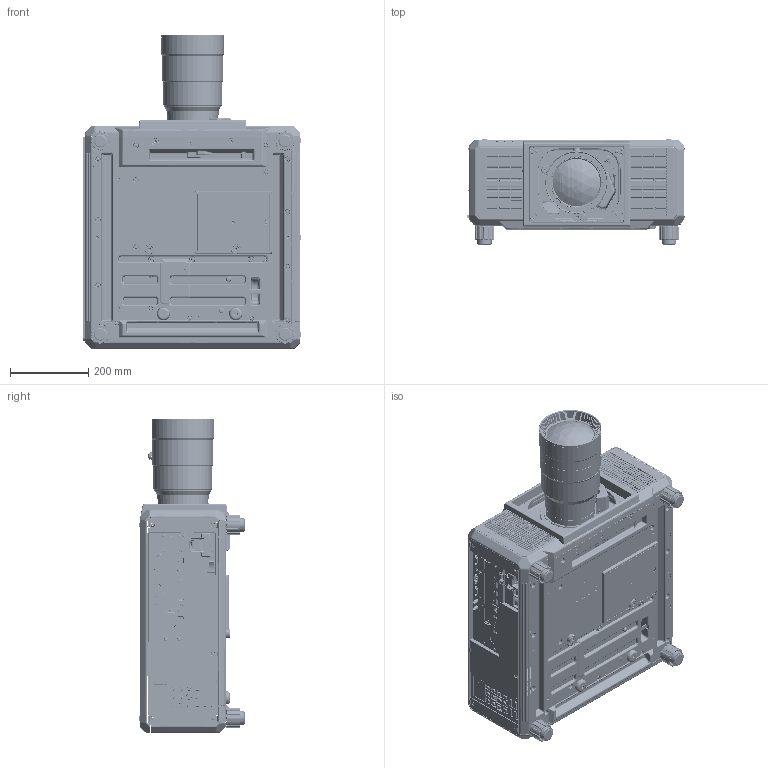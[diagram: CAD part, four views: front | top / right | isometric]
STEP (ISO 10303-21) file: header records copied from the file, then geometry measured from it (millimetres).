
FILE_DESCRIPTION(/* description */ (''),/* implementation_level */ '2;1');
FILE_NAME(/* name */ '01358109_ZA00_1-RQ25K_LEW600_FACE_1.stp',/* time_stamp */ '2025-04-18T13:39:56+09:00',/* author */ (''),/* organization */ (''),/* preprocessor_version */ 'ST-DEVELOPER v18.102',/* originating_system */ 'SIEMENS PLM Software NX2206.8080',/* authorisation */ '');
FILE_SCHEMA (('AUTOMOTIVE_DESIGN { 1 0 10303 214 3 1 1 1 }'));
Products named in the file (1): 01358109_ZA00_1-RQ25K_LEW600_FACE
Bounding box: 556.3 x 269 x 802.85 mm (x, y, z)
Surface area: 2115011.2 mm2 (no closed solid volume)
Topology: 0 solids, 2205 shells, 10685 faces, 48130 edges, 38989 vertices
Faces by surface type: plane 5407, cylinder 4134, torus 443, bspline 376, cone 210, sphere 114, extrusion 1
Full cylindrical faces by diameter (mm): 1.02 x2, 3 x3, 3.6 x2, 4.5 x1, 5 x6, 5.5 x1, 6 x2, 8 x2, 9.5 x2, 16 x2, 37.2 x4, 40 x4, 110.7 x1, 111 x1, 116.6 x1, 121.3 x1, 125.4 x1, 125.6 x1, 126.2 x1, 126.6 x1, 129 x1, 131.8 x1, 132.5 x1, 136.5 x1, 138.5 x1, 140.5 x1, 142.5 x1, 144.5 x1, 144.8 x1, 146.5 x1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
Entity records: 582363 total; most frequent: CARTESIAN_POINT 132608, DIRECTION 79781, ORIENTED_EDGE 58775, EDGE_CURVE 47690, VERTEX_POINT 38854, VECTOR 27097, LINE 27096, AXIS2_PLACEMENT_3D 26342
